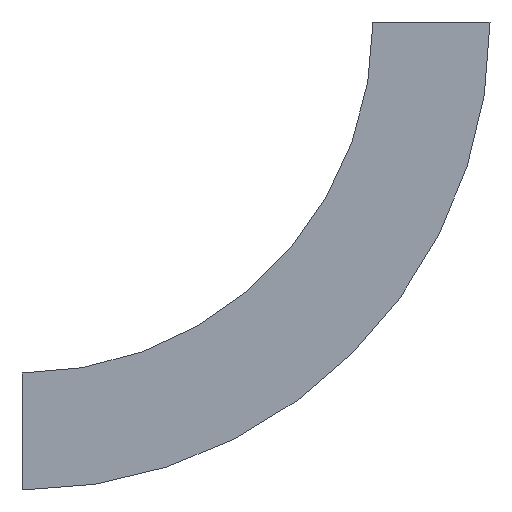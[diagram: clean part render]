
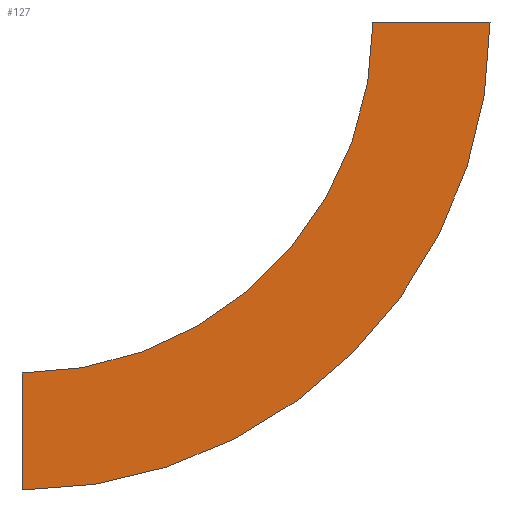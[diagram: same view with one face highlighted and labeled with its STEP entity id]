
A CAD part, left-side view. The second image highlights one B-rep face of the part: STEP entity #127.
In plain terms, the highlighted planar face has unit normal (-1, 0, 0) as drawn and (1, 0, 0) by its records, which use the part's own axes.
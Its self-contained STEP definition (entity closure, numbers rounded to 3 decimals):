
#14 = EDGE_CURVE ( 'NONE', #419, #448, #565, .T. ) ;
#46 = ORIENTED_EDGE ( 'NONE', *, *, #14, .F. ) ;
#57 = ORIENTED_EDGE ( 'NONE', *, *, #135, .T. ) ;
#74 = CARTESIAN_POINT ( 'NONE',  ( 0., -100., 0. ) ) ;
#85 = DIRECTION ( 'NONE',  ( -1., 0., 0. ) ) ;
#91 = CIRCLE ( 'NONE', #466, 300. ) ;
#95 = EDGE_CURVE ( 'NONE', #448, #285, #91, .T. ) ;
#103 = CARTESIAN_POINT ( 'NONE',  ( 0., 300., -400. ) ) ;
#105 = DIRECTION ( 'NONE',  ( 1., 0., 0. ) ) ;
#109 = LINE ( 'NONE', #320, #245 ) ;
#119 = ORIENTED_EDGE ( 'NONE', *, *, #95, .F. ) ;
#127 = ADVANCED_FACE ( 'NONE', ( #574 ), #146, .F. ) ;
#135 = EDGE_CURVE ( 'NONE', #419, #417, #474, .T. ) ;
#146 = PLANE ( 'NONE',  #380 ) ;
#160 = AXIS2_PLACEMENT_3D ( 'NONE', #551, #105, #457 ) ;
#177 = CARTESIAN_POINT ( 'NONE',  ( 0., 300., 0. ) ) ;
#181 = CARTESIAN_POINT ( 'NONE',  ( 0., -100., 0. ) ) ;
#182 = ORIENTED_EDGE ( 'NONE', *, *, #253, .T. ) ;
#233 = DIRECTION ( 'NONE',  ( 1., 0., 0. ) ) ;
#245 = VECTOR ( 'NONE', #447, 1000. ) ;
#253 = EDGE_CURVE ( 'NONE', #417, #285, #109, .T. ) ;
#278 = DIRECTION ( 'NONE',  ( 0., -1., 0. ) ) ;
#285 = VERTEX_POINT ( 'NONE', #554 ) ;
#289 = VECTOR ( 'NONE', #308, 1000. ) ;
#308 = DIRECTION ( 'NONE',  ( 0., 1., 0. ) ) ;
#320 = CARTESIAN_POINT ( 'NONE',  ( 0., 300., -400. ) ) ;
#360 = DIRECTION ( 'NONE',  ( 0., 0., 1. ) ) ;
#380 = AXIS2_PLACEMENT_3D ( 'NONE', #181, #85, #360 ) ;
#387 = CARTESIAN_POINT ( 'NONE',  ( 0., -100., 0. ) ) ;
#417 = VERTEX_POINT ( 'NONE', #103 ) ;
#419 = VERTEX_POINT ( 'NONE', #74 ) ;
#447 = DIRECTION ( 'NONE',  ( 0., 0., 1. ) ) ;
#448 = VERTEX_POINT ( 'NONE', #476 ) ;
#457 = DIRECTION ( 'NONE',  ( 0., -1., 0. ) ) ;
#466 = AXIS2_PLACEMENT_3D ( 'NONE', #177, #233, #278 ) ;
#474 = CIRCLE ( 'NONE', #160, 400. ) ;
#476 = CARTESIAN_POINT ( 'NONE',  ( 0., 0., 0. ) ) ;
#550 = EDGE_LOOP ( 'NONE', ( #119, #46, #57, #182 ) ) ;
#551 = CARTESIAN_POINT ( 'NONE',  ( 0., 300., 0. ) ) ;
#554 = CARTESIAN_POINT ( 'NONE',  ( 0., 300., -300. ) ) ;
#565 = LINE ( 'NONE', #387, #289 ) ;
#574 = FACE_OUTER_BOUND ( 'NONE', #550, .T. ) ;
